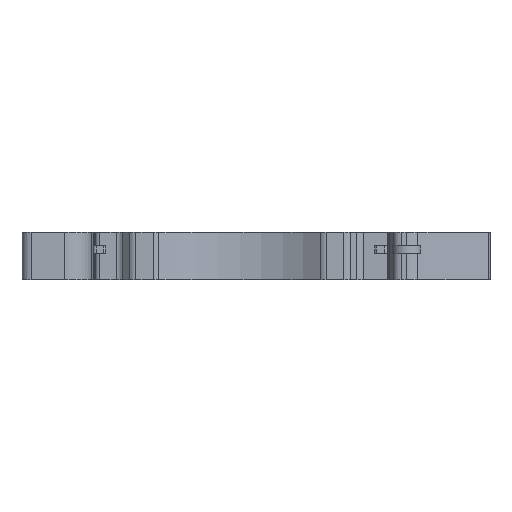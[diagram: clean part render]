
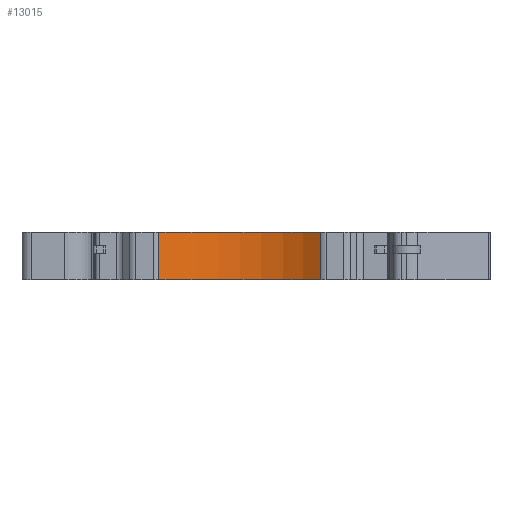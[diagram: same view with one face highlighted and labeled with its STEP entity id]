
A CAD part, front view. The second image highlights one B-rep face of the part: STEP entity #13015.
In plain terms, the highlighted cylindrical face has radius 15 mm (diameter 30 mm), a partial arc.
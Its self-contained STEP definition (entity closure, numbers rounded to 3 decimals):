
#69=CYLINDRICAL_SURFACE('',#13765,15.);
#348=CIRCLE('',#13766,15.);
#349=CIRCLE('',#13767,15.);
#2724=ORIENTED_EDGE('',*,*,#5673,.T.);
#2725=ORIENTED_EDGE('',*,*,#5674,.F.);
#2726=ORIENTED_EDGE('',*,*,#5675,.T.);
#2727=ORIENTED_EDGE('',*,*,#5671,.T.);
#5671=EDGE_CURVE('',#7258,#7257,#8602,.T.);
#5673=EDGE_CURVE('',#7257,#7259,#348,.T.);
#5674=EDGE_CURVE('',#7260,#7259,#8603,.T.);
#5675=EDGE_CURVE('',#7260,#7258,#349,.T.);
#7257=VERTEX_POINT('',#22385);
#7258=VERTEX_POINT('',#22387);
#7259=VERTEX_POINT('',#22391);
#7260=VERTEX_POINT('',#22393);
#8602=LINE('',#22386,#10006);
#8603=LINE('',#22392,#10007);
#10006=VECTOR('',#16003,1000.);
#10007=VECTOR('',#16010,1000.);
#11033=EDGE_LOOP('',(#2724,#2725,#2726,#2727));
#11813=FACE_BOUND('',#11033,.T.);
#13015=ADVANCED_FACE('',(#11813),#69,.F.);
#13765=AXIS2_PLACEMENT_3D('',#22389,#16006,#16007);
#13766=AXIS2_PLACEMENT_3D('',#22390,#16008,#16009);
#13767=AXIS2_PLACEMENT_3D('',#22394,#16011,#16012);
#16003=DIRECTION('',(0.,0.,1.));
#16006=DIRECTION('',(0.,0.,-1.));
#16007=DIRECTION('',(-1.,0.,0.));
#16008=DIRECTION('',(0.,0.,1.));
#16009=DIRECTION('',(0.588,0.809,0.));
#16010=DIRECTION('',(0.,0.,1.));
#16011=DIRECTION('',(0.,0.,-1.));
#16012=DIRECTION('',(-0.588,0.809,0.));
#22385=CARTESIAN_POINT('',(32.518,4.884,0.));
#22386=CARTESIAN_POINT('',(32.518,4.884,-5.2));
#22387=CARTESIAN_POINT('',(32.518,4.884,-5.2));
#22389=CARTESIAN_POINT('',(23.7,-7.25,0.104));
#22390=CARTESIAN_POINT('',(23.7,-7.25,0.));
#22391=CARTESIAN_POINT('',(14.882,4.884,0.));
#22392=CARTESIAN_POINT('',(14.882,4.884,-5.2));
#22393=CARTESIAN_POINT('',(14.882,4.884,-5.2));
#22394=CARTESIAN_POINT('',(23.7,-7.25,-5.2));
